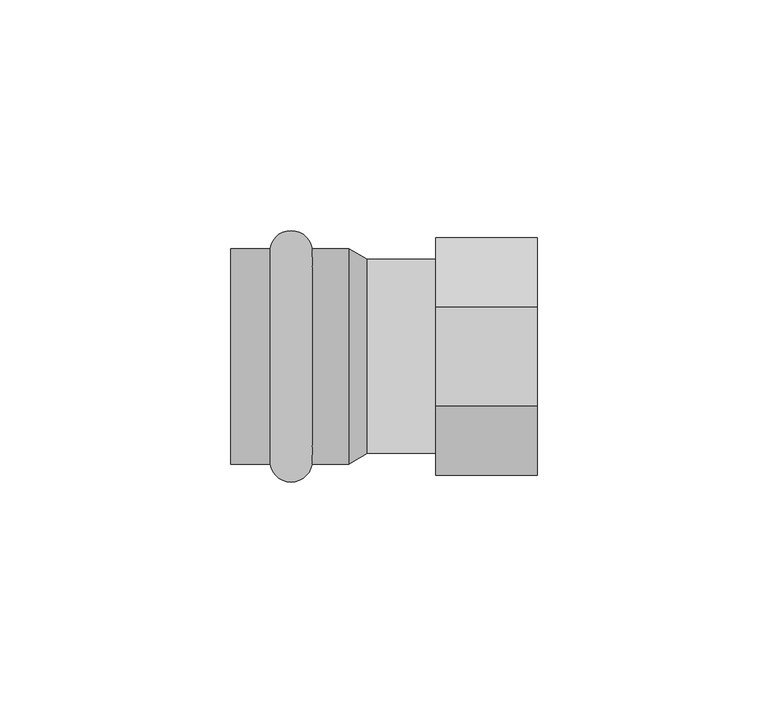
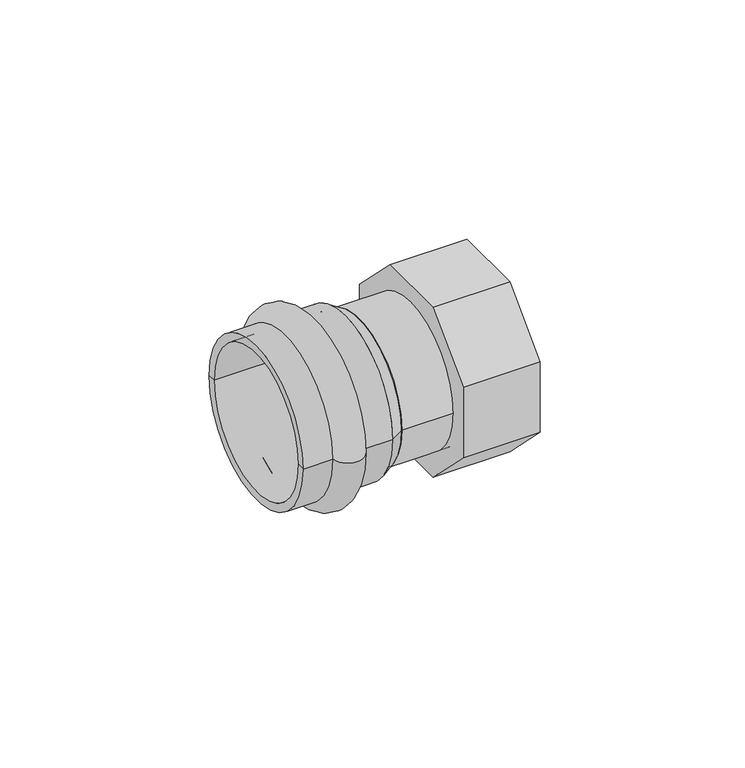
"""IFC4 building model written with IfcOpenShell, lengths in millimetres: pipe fitting geometry, VALTEC_VTi.908.I_Соединитель с накидной гайкой_Нержавеющая сталь : VTi.908.I."""

from ifc_helpers import new_model, si_unit, point, frame, origin, origin_2d, place, context, project, spatial, polyline, circle_curve, ellipse_curve, trimmed, segment, composite_curve, outline, extrude, source, transform, mapped, element, save
from ifc_brep_helpers import plane_surface, cylinder_surface, revolved_surface, advanced_brep


def pipe_fitting_07b2100a(model_context):
    return source(origin(), model_context, "Body", "SolidModel", [
        advanced_brep(
        [(-46.9464272, -23.35, 0.0), (-46.9464272, 23.35, 0.0), (-37.8535728, 23.35, 0.0), (-37.8535728, -23.35, 0.0), (-55.5, -23.35, 0.0), (-55.5, 23.35, 0.0), (-55.5, -21.0, 0.0), (-55.5, 21.0, 0.0), (-29.9, -21.0, 0.0), (-29.9, 21.0, 0.0), (-29.9, -23.35, 0.0), (-29.9, 23.35, 0.0)],
        [
            (0, 1, circle_curve(frame((-46.9464272, 0.0, 0.0), z_axis=(1.0, 0.0, 0.0), x_axis=(0.0, 1.0, 0.0)), 23.35)),
            (1, 2, circle_curve(frame((-42.4, 22.65, 0.0), z_axis=(0.0, 0.0, -1.0), x_axis=(1.0, 0.0, 0.0)), 4.6)),
            (2, 3, circle_curve(frame((-37.8535728, 0.0, 0.0), z_axis=(-1.0, 0.0, 0.0), x_axis=(0.0, 1.0, 0.0)), 23.35)),
            (3, 0, circle_curve(frame((-42.4, -22.65, 0.0), z_axis=(0.0, 0.0, -1.0), x_axis=(1.0, 0.0, 0.0)), 4.6)),
            (1, 0, circle_curve(frame((-46.9464272, 0.0, 0.0), z_axis=(1.0, 0.0, 0.0), x_axis=(0.0, 1.0, 0.0)), 23.35)),
            (3, 2, circle_curve(frame((-37.8535728, 0.0, 0.0), z_axis=(-1.0, 0.0, 0.0), x_axis=(0.0, 1.0, 0.0)), 23.35)),
            (4, 5, circle_curve(frame((-55.5, 0.0, 0.0), z_axis=(1.0, 0.0, 0.0), x_axis=(0.0, 1.0, 0.0)), 23.35)),
            (5, 1),
            (0, 4),
            (5, 4, circle_curve(frame((-55.5, 0.0, 0.0), z_axis=(1.0, 0.0, 0.0), x_axis=(0.0, 1.0, 0.0)), 23.35)),
            (6, 7, circle_curve(frame((-55.5, 0.0, 0.0), z_axis=(1.0, 0.0, 0.0), x_axis=(0.0, 1.0, 0.0)), 21.0)),
            (7, 5),
            (4, 6),
            (7, 6, circle_curve(frame((-55.5, 0.0, 0.0), z_axis=(1.0, 0.0, 0.0), x_axis=(0.0, 1.0, 0.0)), 21.0)),
            (8, 9, circle_curve(frame((-29.9, 0.0, 0.0), z_axis=(1.0, 0.0, 0.0), x_axis=(0.0, 1.0, 0.0)), 21.0)),
            (9, 7),
            (6, 8),
            (9, 8, circle_curve(frame((-29.9, 0.0, 0.0), z_axis=(1.0, 0.0, 0.0), x_axis=(0.0, 1.0, 0.0)), 21.0)),
            (10, 11, circle_curve(frame((-29.9, 0.0, 0.0), z_axis=(1.0, 0.0, 0.0), x_axis=(0.0, 1.0, 0.0)), 23.35)),
            (11, 9),
            (8, 10),
            (11, 10, circle_curve(frame((-29.9, 0.0, 0.0), z_axis=(1.0, 0.0, 0.0), x_axis=(0.0, 1.0, 0.0)), 23.35)),
            (2, 11),
            (10, 3),
        ],
        [
            revolved_surface(trimmed(ellipse_curve(frame((-42.4, 22.65, 0.0), z_axis=(0.0, 0.0, 1.0), x_axis=(1.0, 0.0, 0.0)), 4.6, 4.6), [point((-37.8535728, 23.35, 0.0))], [point((-46.9464272, 23.35, 0.0))], True, "CARTESIAN"), (-59.0364426, 0.0, 0.0), (-1.0, 0.0, 0.0)),
            cylinder_surface(frame((-59.0364426, 0.0, 0.0), z_axis=(-1.0, 0.0, 0.0), x_axis=(0.0, 1.0, 0.0)), 23.35),
            plane_surface(frame((-55.5, 0.0, 0.0), z_axis=(-1.0, 0.0, 0.0), x_axis=(0.0, 1.0, 0.0))),
            revolved_surface(polyline([(-55.5, 21.0, 0.0), (-29.9, 21.0, 0.0)]), (-59.0364426, 0.0, 0.0), (-1.0, 0.0, 0.0)),
            plane_surface(frame((-29.9, 0.0, 0.0), z_axis=(1.0, 0.0, 0.0), x_axis=(0.0, 1.0, 0.0))),
        ],
        [
            (0, [[1, 2, 3, 4]]),
            (0, [[5, -4, 6, -2]]),
            (1, [[7, 8, -1, 9]]),
            (1, [[10, -9, -5, -8]]),
            (2, [[11, 12, -7, 13]]),
            (2, [[14, -13, -10, -12]]),
            (3, [[15, 16, -11, 17]]),
            (3, [[18, -17, -14, -16]]),
            (4, [[19, 20, -15, 21]]),
            (4, [[22, -21, -18, -20]]),
            (1, [[-3, 23, -19, 24]]),
            (1, [[-6, -24, -22, -23]]),
        ],
    ),
        extrude(outline(polyline([(10.6659992, 25.75), (25.75, 10.6659992), (25.75, -10.6659992), (10.6659992, -25.75), (-10.6659992, -25.75), (-25.75, -10.6659992), (-25.75, 10.6659992), (-10.6659992, 25.75), (10.6659992, 25.75)])), frame((-11.0, 0.0, 0.0), z_axis=(1.0, 0.0, 0.0), x_axis=(0.0, 1.0, 0.0)), (0.0, 0.0, 1.0), 22.0),
        extrude(outline(polyline([(10.6659992, 25.75), (25.75, 10.6659992), (25.75, -10.6659992), (10.6659992, -25.75), (-10.6659992, -25.75), (-25.75, -10.6659992), (-25.75, 10.6659992), (-10.6659992, 25.75), (10.6659992, 25.75)]), holes=[composite_curve([segment(trimmed(circle_curve(origin_2d(), 20.0), [point((-20.0, 0.0))], [point((20.0, 0.0))], True, "CARTESIAN"), True, "CONTINUOUS"), segment(trimmed(circle_curve(origin_2d(), 20.0), [point((20.0, 0.0))], [point((-20.0, 0.0))], True, "CARTESIAN"), True, "CONTINUOUS")], self_intersect=False)]), frame((-11.0, 0.0, 0.0), z_axis=(1.0, 0.0, 0.0), x_axis=(0.0, 1.0, 0.0)), (0.0, 0.0, 1.0), 22.0),
        extrude(outline(composite_curve([segment(trimmed(circle_curve(origin_2d(), 21.0), [point((-21.0, 0.0))], [point((21.0, 0.0))], False, "CARTESIAN"), True, "CONTINUOUS"), segment(trimmed(circle_curve(origin_2d(), 21.0), [point((21.0, 0.0))], [point((-21.0, 0.0))], False, "CARTESIAN"), True, "CONTINUOUS")], self_intersect=False)), frame((-25.9, 0.0, 0.0), z_axis=(1.0, 0.0, 0.0), x_axis=(0.0, 1.0, 0.0)), (0.0, 0.0, 1.0), 17.4),
        advanced_brep(
        [(-25.9, -21.0, 0.0), (-25.9, 21.0, 0.0), (-29.9, -23.35, 0.0), (-29.9, 23.35, 0.0)],
        [
            (0, 1, circle_curve(frame((-25.9, 0.0, 0.0), z_axis=(1.0, 0.0, 0.0), x_axis=(0.0, -1.0, 0.0)), 21.0)),
            (1, 0, circle_curve(frame((-25.9, 0.0, 0.0), z_axis=(1.0, 0.0, 0.0), x_axis=(0.0, 1.0, 0.0)), 21.0)),
            (2, 3, circle_curve(frame((-29.9, 0.0, 0.0), z_axis=(-1.0, 0.0, 0.0), x_axis=(0.0, 1.0, 0.0)), 23.35)),
            (3, 2, circle_curve(frame((-29.9, 0.0, 0.0), z_axis=(-1.0, 0.0, 0.0), x_axis=(0.0, -1.0, 0.0)), 23.35)),
            (3, 1),
            (0, 2),
        ],
        [
            plane_surface(frame((-25.9, 0.0, 0.0), z_axis=(1.0, 0.0, 0.0), x_axis=(0.0, 0.0, -1.0))),
            plane_surface(frame((-29.9, 0.0, 0.0), z_axis=(-1.0, 0.0, 0.0), x_axis=(0.0, 0.0, -1.0))),
            revolved_surface(polyline([(-25.9, -21.000000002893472, 0.0), (-29.9, -23.35, 0.0)]), (9.8446809, 0.0, 0.0), (-1.0, 0.0, 0.0)),
            revolved_surface(polyline([(-25.9, 21.000000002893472, 0.0), (-29.9, 23.35, 0.0)]), (9.8446809, 0.0, 0.0), (-1.0, 0.0, 0.0)),
        ],
        [
            (0, [[1, 2]]),
            (1, [[3, 4]]),
            (2, [[-4, 5, -1, 6]]),
            (3, [[-3, -6, -2, -5]]),
        ],
    ),
    ])


if __name__ == "__main__":
    model = new_model("IFC4")
    model_context = context("Model", 3, world=origin())
    ifc_project = project(units=[si_unit("LENGTHUNIT", "METRE", prefix="MILLI")], contexts=[model_context])
    site = spatial("IfcSite", under=ifc_project)
    building = spatial("IfcBuilding", under=site)
    placement = place(None, origin())
    pipe_fitting_shape = pipe_fitting_07b2100a(model_context)
    element("IfcPipeFitting", 1, ObjectType="VALTEC_VTi.908.I_Соединитель с накидной гайкой_Нержавеющая сталь : VTi.908.I", at=placement, inside=building, context=model_context, shape_type="MappedRepresentation", body=[
        mapped(pipe_fitting_shape, transform((0.0, 0.0, 0.0), x_axis=(1.0, 0.0, 0.0), y_axis=(0.0, 1.0, 0.0), z_axis=(0.0, 0.0, 1.0))),
    ])
    save(model, "model.ifc")
